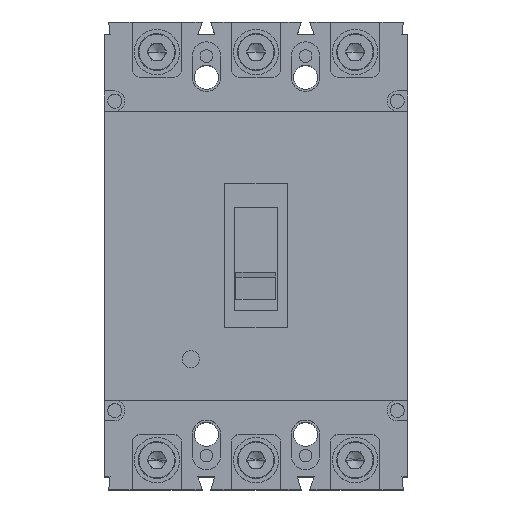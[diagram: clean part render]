
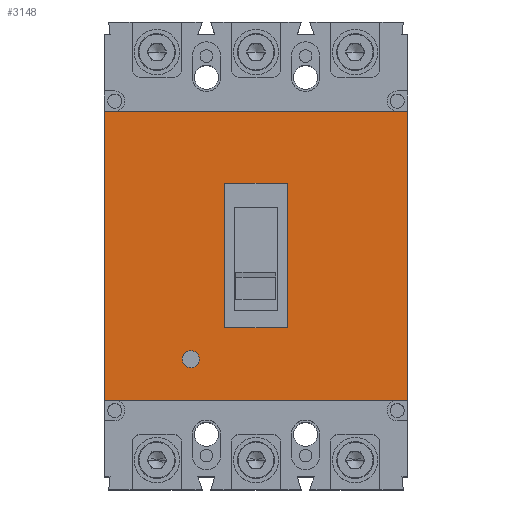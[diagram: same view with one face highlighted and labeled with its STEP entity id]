
A CAD part, top view. The second image highlights one B-rep face of the part: STEP entity #3148.
In plain terms, the highlighted planar face has unit normal (0, 0, 1).
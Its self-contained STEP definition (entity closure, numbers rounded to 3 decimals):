
#138 = EDGE_CURVE ( 'NONE', #4437, #4424, #2368, .T. ) ;
#147 = EDGE_CURVE ( 'NONE', #4424, #4437, #6133, .T. ) ;
#158 = EDGE_CURVE ( 'NONE', #4138, #4129, #2565, .T. ) ;
#237 = EDGE_CURVE ( 'NONE', #4007, #4006, #2791, .T. ) ;
#243 = EDGE_CURVE ( 'NONE', #4006, #4025, #2422, .T. ) ;
#252 = EDGE_CURVE ( 'NONE', #4129, #4160, #2740, .T. ) ;
#254 = EDGE_CURVE ( 'NONE', #4008, #4007, #2735, .T. ) ;
#255 = EDGE_CURVE ( 'NONE', #4025, #4008, #2488, .T. ) ;
#257 = EDGE_CURVE ( 'NONE', #4145, #4138, #2506, .T. ) ;
#289 = EDGE_CURVE ( 'NONE', #4160, #4145, #2464, .T. ) ;
#779 = VECTOR ( 'NONE', #2567, 1000. ) ;
#2213 = ORIENTED_EDGE ( 'NONE', *, *, #289, .T. ) ;
#2215 = ORIENTED_EDGE ( 'NONE', *, *, #147, .F. ) ;
#2216 = ORIENTED_EDGE ( 'NONE', *, *, #252, .T. ) ;
#2224 = ORIENTED_EDGE ( 'NONE', *, *, #138, .F. ) ;
#2227 = ORIENTED_EDGE ( 'NONE', *, *, #255, .F. ) ;
#2302 = ORIENTED_EDGE ( 'NONE', *, *, #254, .F. ) ;
#2303 = ORIENTED_EDGE ( 'NONE', *, *, #158, .T. ) ;
#2330 = ORIENTED_EDGE ( 'NONE', *, *, #237, .F. ) ;
#2348 = ORIENTED_EDGE ( 'NONE', *, *, #257, .T. ) ;
#2350 = ORIENTED_EDGE ( 'NONE', *, *, #243, .F. ) ;
#2368 = CIRCLE ( 'NONE', #2374, 3. ) ;
#2374 = AXIS2_PLACEMENT_3D ( 'NONE', #11059, #11060, #11088 ) ;
#2418 = CARTESIAN_POINT ( 'NONE',  ( 11., 25.5, 103. ) ) ;
#2419 = DIRECTION ( 'NONE',  ( 0., 1., 0. ) ) ;
#2422 = LINE ( 'NONE', #2418, #3383 ) ;
#2457 = DIRECTION ( 'NONE',  ( 0., -1., 0. ) ) ;
#2458 = CARTESIAN_POINT ( 'NONE',  ( -53.5, 78., 103. ) ) ;
#2464 = LINE ( 'NONE', #2458, #3221 ) ;
#2483 = CARTESIAN_POINT ( 'NONE',  ( -11., 25.5, 103. ) ) ;
#2484 = DIRECTION ( 'NONE',  ( 0., -1., 0. ) ) ;
#2488 = LINE ( 'NONE', #2483, #3590 ) ;
#2490 = DIRECTION ( 'NONE',  ( -1., 0., 0. ) ) ;
#2503 = DIRECTION ( 'NONE',  ( -1., 0., 0. ) ) ;
#2505 = CARTESIAN_POINT ( 'NONE',  ( -53.5, -51., 103. ) ) ;
#2506 = LINE ( 'NONE', #2505, #3396 ) ;
#2565 = LINE ( 'NONE', #2568, #779 ) ;
#2567 = DIRECTION ( 'NONE',  ( 0., 1., 0. ) ) ;
#2568 = CARTESIAN_POINT ( 'NONE',  ( 53.5, 78., 103. ) ) ;
#2690 = CARTESIAN_POINT ( 'NONE',  ( -11., -25.5, 103. ) ) ;
#2700 = DIRECTION ( 'NONE',  ( 1., 0., 0. ) ) ;
#2722 = DIRECTION ( 'NONE',  ( 1., 0., 0. ) ) ;
#2733 = CARTESIAN_POINT ( 'NONE',  ( -53.5, 51., 103. ) ) ;
#2735 = LINE ( 'NONE', #2738, #3395 ) ;
#2738 = CARTESIAN_POINT ( 'NONE',  ( -11., 25.5, 103. ) ) ;
#2740 = LINE ( 'NONE', #2733, #3658 ) ;
#2791 = LINE ( 'NONE', #2690, #3428 ) ;
#3148 = ADVANCED_FACE ( 'NONE', ( #7130, #7141, #6447 ), #6894, .F. ) ;
#3221 = VECTOR ( 'NONE', #2457, 1000. ) ;
#3383 = VECTOR ( 'NONE', #2419, 1000. ) ;
#3395 = VECTOR ( 'NONE', #2484, 1000. ) ;
#3396 = VECTOR ( 'NONE', #2722, 1000. ) ;
#3428 = VECTOR ( 'NONE', #2700, 1000. ) ;
#3590 = VECTOR ( 'NONE', #2503, 1000. ) ;
#3658 = VECTOR ( 'NONE', #2490, 1000. ) ;
#4006 = VERTEX_POINT ( 'NONE', #6109 ) ;
#4007 = VERTEX_POINT ( 'NONE', #6107 ) ;
#4008 = VERTEX_POINT ( 'NONE', #6100 ) ;
#4025 = VERTEX_POINT ( 'NONE', #6653 ) ;
#4129 = VERTEX_POINT ( 'NONE', #7848 ) ;
#4138 = VERTEX_POINT ( 'NONE', #8127 ) ;
#4145 = VERTEX_POINT ( 'NONE', #7402 ) ;
#4160 = VERTEX_POINT ( 'NONE', #8006 ) ;
#4424 = VERTEX_POINT ( 'NONE', #7947 ) ;
#4437 = VERTEX_POINT ( 'NONE', #7946 ) ;
#4528 = AXIS2_PLACEMENT_3D ( 'NONE', #6148, #6437, #6442 ) ;
#6075 = AXIS2_PLACEMENT_3D ( 'NONE', #10493, #10495, #10490 ) ;
#6100 = CARTESIAN_POINT ( 'NONE',  ( -11., 25.5, 103. ) ) ;
#6107 = CARTESIAN_POINT ( 'NONE',  ( -11., -25.5, 103. ) ) ;
#6109 = CARTESIAN_POINT ( 'NONE',  ( 11., -25.5, 103. ) ) ;
#6133 = CIRCLE ( 'NONE', #6075, 3. ) ;
#6148 = CARTESIAN_POINT ( 'NONE',  ( -51.5, 78., 103. ) ) ;
#6437 = DIRECTION ( 'NONE',  ( 0., 0., -1. ) ) ;
#6442 = DIRECTION ( 'NONE',  ( -1., 0., 0. ) ) ;
#6447 = FACE_BOUND ( 'NONE', #9190, .T. ) ;
#6653 = CARTESIAN_POINT ( 'NONE',  ( 11., 25.5, 103. ) ) ;
#6894 = PLANE ( 'NONE',  #4528 ) ;
#7130 = FACE_BOUND ( 'NONE', #9003, .T. ) ;
#7141 = FACE_OUTER_BOUND ( 'NONE', #9004, .T. ) ;
#7402 = CARTESIAN_POINT ( 'NONE',  ( -53.5, -51., 103. ) ) ;
#7848 = CARTESIAN_POINT ( 'NONE',  ( 53.5, 51., 103. ) ) ;
#7946 = CARTESIAN_POINT ( 'NONE',  ( -20., -36.5, 103. ) ) ;
#7947 = CARTESIAN_POINT ( 'NONE',  ( -26., -36.5, 103. ) ) ;
#8006 = CARTESIAN_POINT ( 'NONE',  ( -53.5, 51., 103. ) ) ;
#8127 = CARTESIAN_POINT ( 'NONE',  ( 53.5, -51., 103. ) ) ;
#9003 = EDGE_LOOP ( 'NONE', ( #2224, #2215 ) ) ;
#9004 = EDGE_LOOP ( 'NONE', ( #2216, #2213, #2348, #2303 ) ) ;
#9190 = EDGE_LOOP ( 'NONE', ( #2302, #2227, #2350, #2330 ) ) ;
#10490 = DIRECTION ( 'NONE',  ( 1., 0., 0. ) ) ;
#10493 = CARTESIAN_POINT ( 'NONE',  ( -23., -36.5, 103. ) ) ;
#10495 = DIRECTION ( 'NONE',  ( 0., 0., 1. ) ) ;
#11059 = CARTESIAN_POINT ( 'NONE',  ( -23., -36.5, 103. ) ) ;
#11060 = DIRECTION ( 'NONE',  ( 0., 0., 1. ) ) ;
#11088 = DIRECTION ( 'NONE',  ( 1., 0., 0. ) ) ;
